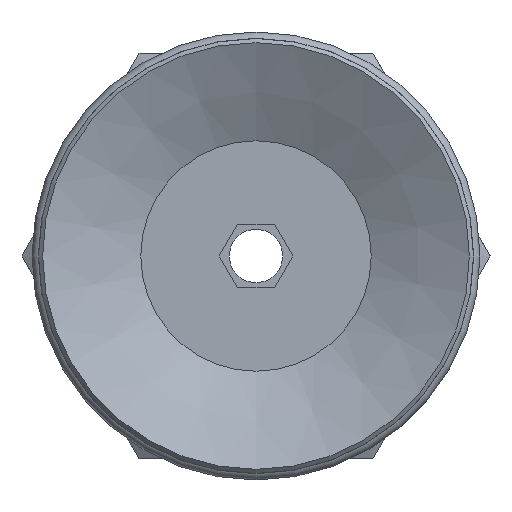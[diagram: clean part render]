
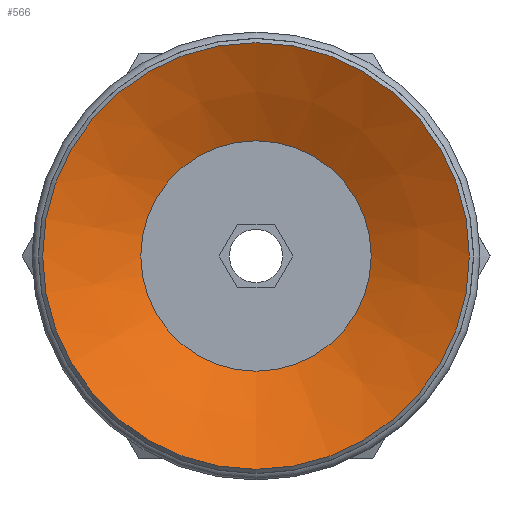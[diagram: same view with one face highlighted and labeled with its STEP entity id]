
A CAD part, front view. The second image highlights one B-rep face of the part: STEP entity #566.
In plain terms, the highlighted conical face has half-angle 63 degrees and reference radius 5.4 mm.
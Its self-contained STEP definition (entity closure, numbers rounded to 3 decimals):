
#566=ADVANCED_FACE('',(#838,#839),#840,.F.);
#838=FACE_BOUND('',#1115,.T.);
#839=FACE_OUTER_BOUND('',#1116,.T.);
#840=CONICAL_SURFACE('',#1117,5.4,1.1);
#1115=EDGE_LOOP('',(#1883));
#1116=EDGE_LOOP('',(#1884));
#1117=AXIS2_PLACEMENT_3D('',#1885,#1886,#1887);
#1883=ORIENTED_EDGE('',*,*,#2108,.F.);
#1884=ORIENTED_EDGE('',*,*,#2113,.T.);
#1885=CARTESIAN_POINT('',(0.0,5.518,0.0));
#1886=DIRECTION('',(-0.0,-1.0,0.));
#1887=DIRECTION('',(0.0,0.,-1.0));
#2108=EDGE_CURVE('',#2468,#2468,#2469,.T.);
#2113=EDGE_CURVE('',#2478,#2478,#2479,.T.);
#2468=VERTEX_POINT('',#3260);
#2469=CIRCLE('',#3261,5.4);
#2478=VERTEX_POINT('',#3270);
#2479=CIRCLE('',#3271,10.0);
#3260=CARTESIAN_POINT('',(0.0,5.518,-5.4));
#3261=AXIS2_PLACEMENT_3D('',#3578,#3579,#3580);
#3270=CARTESIAN_POINT('',(0.0,3.175,-10.0));
#3271=AXIS2_PLACEMENT_3D('',#3593,#3594,#3595);
#3578=CARTESIAN_POINT('',(0.0,5.518,0.0));
#3579=DIRECTION('',(0.0,-1.0,0.));
#3580=DIRECTION('',(0.0,0.,-1.0));
#3593=CARTESIAN_POINT('',(0.0,3.175,0.0));
#3594=DIRECTION('',(0.0,-1.0,0.));
#3595=DIRECTION('',(0.0,0.,-1.0));
